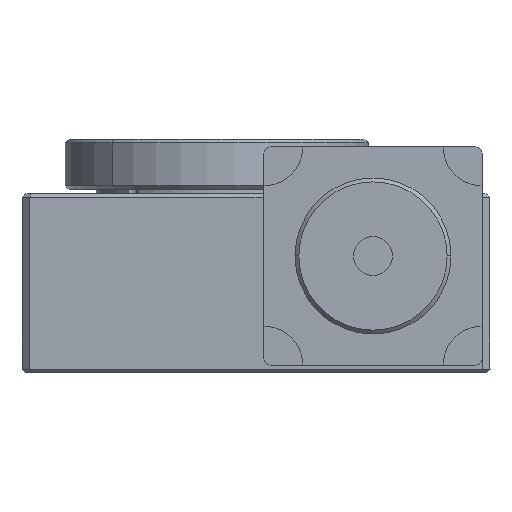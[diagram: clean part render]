
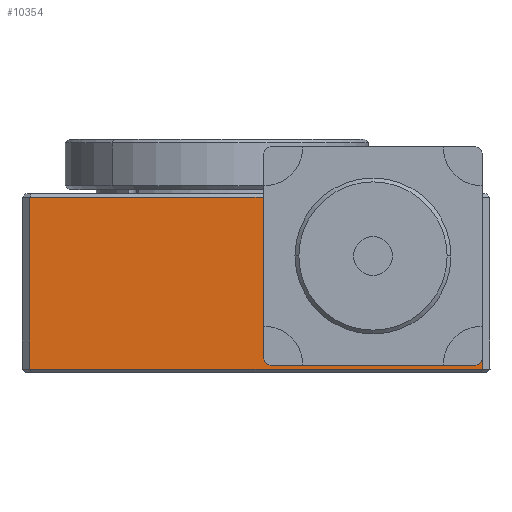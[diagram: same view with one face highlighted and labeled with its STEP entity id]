
A CAD part, front view. The second image highlights one B-rep face of the part: STEP entity #10354.
In plain terms, the highlighted planar face has unit normal (0, -1, 0).
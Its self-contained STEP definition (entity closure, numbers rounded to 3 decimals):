
#38 = VERTEX_POINT ( 'NONE', #19750 ) ;
#194 = VECTOR ( 'NONE', #11870, 1000. ) ;
#610 = AXIS2_PLACEMENT_3D ( 'NONE', #20182, #11858, #4295 ) ;
#1286 = CARTESIAN_POINT ( 'NONE',  ( -2.473, -19.413, 71. ) ) ;
#1861 = LINE ( 'NONE', #12281, #16828 ) ;
#2182 = DIRECTION ( 'NONE',  ( 0., -1., 0. ) ) ;
#3343 = VERTEX_POINT ( 'NONE', #20981 ) ;
#3918 = EDGE_CURVE ( 'NONE', #38, #20668, #25652, .T. ) ;
#4295 = DIRECTION ( 'NONE',  ( 1., 0., 0. ) ) ;
#4374 = CIRCLE ( 'NONE', #610, 7. ) ;
#4986 = VERTEX_POINT ( 'NONE', #14994 ) ;
#5193 = VERTEX_POINT ( 'NONE', #18763 ) ;
#5198 = AXIS2_PLACEMENT_3D ( 'NONE', #21869, #25775, #16142 ) ;
#5912 = DIRECTION ( 'NONE',  ( 0., 0., 1. ) ) ;
#6382 = ORIENTED_EDGE ( 'NONE', *, *, #8837, .T. ) ;
#7225 = CARTESIAN_POINT ( 'NONE',  ( 26.527, -19.413, 49. ) ) ;
#7621 = ORIENTED_EDGE ( 'NONE', *, *, #14536, .F. ) ;
#8483 = VECTOR ( 'NONE', #8682, 1000. ) ;
#8682 = DIRECTION ( 'NONE',  ( 1., 0., 0. ) ) ;
#8837 = EDGE_CURVE ( 'NONE', #5193, #15811, #12447, .T. ) ;
#10143 = CARTESIAN_POINT ( 'NONE',  ( 12.527, -19.413, 63.5 ) ) ;
#10354 = ADVANCED_FACE ( 'NONE', ( #20293, #18220 ), #20177, .F. ) ;
#11341 = LINE ( 'NONE', #15749, #194 ) ;
#11858 = DIRECTION ( 'NONE',  ( 0., -1., 0. ) ) ;
#11870 = DIRECTION ( 'NONE',  ( 0., 0., -1. ) ) ;
#12281 = CARTESIAN_POINT ( 'NONE',  ( -31.473, -19.413, 60. ) ) ;
#12447 = LINE ( 'NONE', #20004, #8483 ) ;
#12956 = ORIENTED_EDGE ( 'NONE', *, *, #17902, .F. ) ;
#14536 = EDGE_CURVE ( 'NONE', #5193, #38, #1861, .T. ) ;
#14728 = AXIS2_PLACEMENT_3D ( 'NONE', #10143, #2182, #22358 ) ;
#14994 = CARTESIAN_POINT ( 'NONE',  ( 19.527, -19.413, 63.5 ) ) ;
#15749 = CARTESIAN_POINT ( 'NONE',  ( 26.527, -19.413, 60. ) ) ;
#15811 = VERTEX_POINT ( 'NONE', #7225 ) ;
#16142 = DIRECTION ( 'NONE',  ( 0., 0., 1. ) ) ;
#16828 = VECTOR ( 'NONE', #5912, 1000. ) ;
#17329 = CARTESIAN_POINT ( 'NONE',  ( 26.527, -19.413, 71. ) ) ;
#17414 = ORIENTED_EDGE ( 'NONE', *, *, #19887, .F. ) ;
#17447 = DIRECTION ( 'NONE',  ( 1., 0., 0. ) ) ;
#17533 = ORIENTED_EDGE ( 'NONE', *, *, #24273, .F. ) ;
#17615 = EDGE_LOOP ( 'NONE', ( #6382, #17414, #21895, #7621 ) ) ;
#17638 = EDGE_LOOP ( 'NONE', ( #17533, #12956 ) ) ;
#17902 = EDGE_CURVE ( 'NONE', #3343, #4986, #20944, .T. ) ;
#18220 = FACE_OUTER_BOUND ( 'NONE', #17615, .T. ) ;
#18763 = CARTESIAN_POINT ( 'NONE',  ( -31.473, -19.413, 49. ) ) ;
#19750 = CARTESIAN_POINT ( 'NONE',  ( -31.473, -19.413, 71. ) ) ;
#19887 = EDGE_CURVE ( 'NONE', #20668, #15811, #11341, .T. ) ;
#20004 = CARTESIAN_POINT ( 'NONE',  ( -2.473, -19.413, 49. ) ) ;
#20177 = PLANE ( 'NONE',  #5198 ) ;
#20182 = CARTESIAN_POINT ( 'NONE',  ( 12.527, -19.413, 63.5 ) ) ;
#20183 = VECTOR ( 'NONE', #17447, 1000. ) ;
#20293 = FACE_BOUND ( 'NONE', #17638, .T. ) ;
#20668 = VERTEX_POINT ( 'NONE', #17329 ) ;
#20944 = CIRCLE ( 'NONE', #14728, 7. ) ;
#20981 = CARTESIAN_POINT ( 'NONE',  ( 5.527, -19.413, 63.5 ) ) ;
#21869 = CARTESIAN_POINT ( 'NONE',  ( -31.473, -19.413, 49. ) ) ;
#21895 = ORIENTED_EDGE ( 'NONE', *, *, #3918, .F. ) ;
#22358 = DIRECTION ( 'NONE',  ( 1., 0., 0. ) ) ;
#24273 = EDGE_CURVE ( 'NONE', #4986, #3343, #4374, .T. ) ;
#25652 = LINE ( 'NONE', #1286, #20183 ) ;
#25775 = DIRECTION ( 'NONE',  ( 0., 1., 0. ) ) ;
